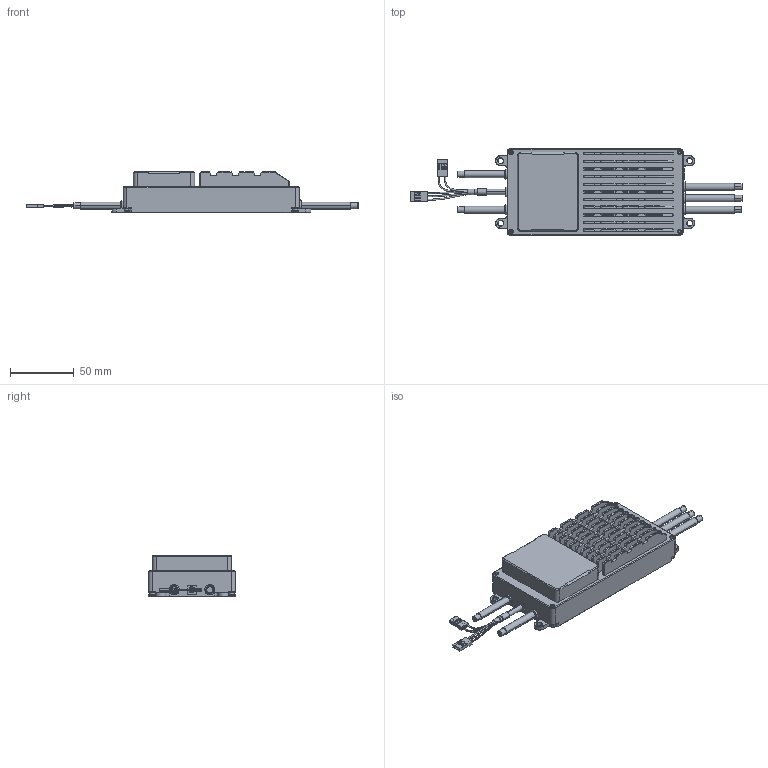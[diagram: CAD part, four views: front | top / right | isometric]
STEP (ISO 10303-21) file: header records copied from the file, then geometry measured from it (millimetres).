
FILE_DESCRIPTION((''),'2;1');
FILE_NAME('XNC00036_SW0004','2026-06-29T18:49:07',('221126'),(''),'CREO PARAMETRIC BY PTC INC, 2021284','CREO PARAMETRIC BY PTC INC, 2021284','');
FILE_SCHEMA(('CONFIG_CONTROL_DESIGN'));
Products named in the file (1): XNC00036_SW0004
Bounding box: 259.99 x 68 x 32.5 mm (x, y, z)
Volume: 230555.4 mm3; surface area: 61548.4 mm2
Topology: 4 solids, 7 shells, 1994 faces, 5014 edges, 3084 vertices
Faces by surface type: plane 1362, cylinder 424, cone 164, bspline 26, torus 18
Entity records: 66027 total; most frequent: CARTESIAN_POINT 17618, DIRECTION 10206, ORIENTED_EDGE 10028, EDGE_CURVE 5014, VECTOR 3552, LINE 3552, AXIS2_PLACEMENT_3D 3327, VERTEX_POINT 3084
